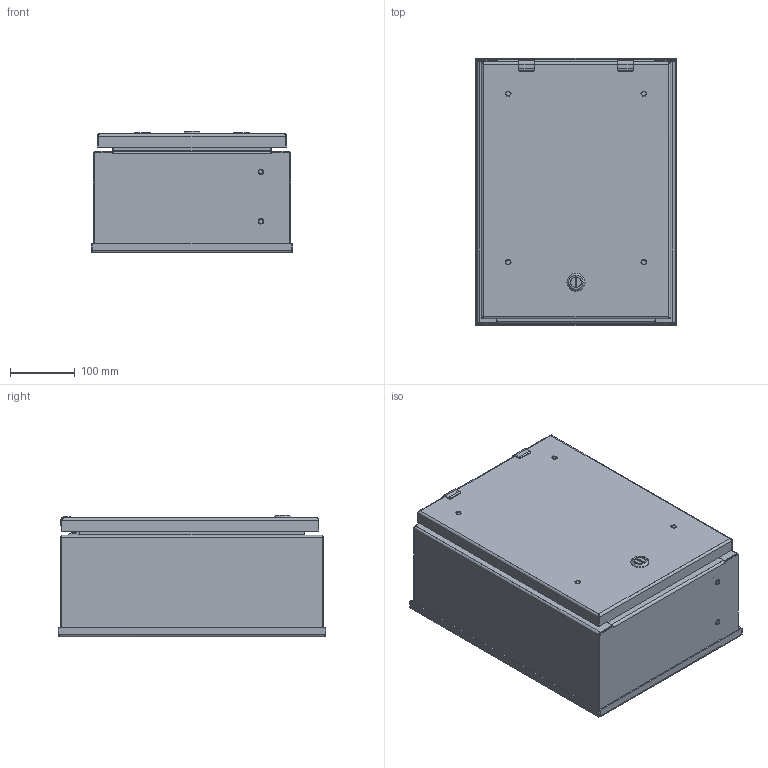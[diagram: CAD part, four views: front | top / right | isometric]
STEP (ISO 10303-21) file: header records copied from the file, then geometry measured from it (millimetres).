
FILE_DESCRIPTION((''),'2;1');
FILE_NAME('MODEL-364_ASM','2023-11-15T13:15:45',('Tony.Gonzales'),('SAGINAW CONTROL & ENGINEERING'),'CREO PARAMETRIC BY PTC INC, 2021284','CREO PARAMETRIC BY PTC INC, 2021284','');
FILE_SCHEMA(('AUTOMOTIVE_DESIGN { 1 0 10303 214 1 1 1 1 }'));
Length unit declared in the file: inch
Products named in the file (31): MODEL-364-BDY; MODEL-364-R-SIDE; MODEL-364-L-SIDE; MODEL-364-R-DR; 103465; 100794_SHAFT; 100794_INSERT; 100794_CAM; 100794_NUT; 100794_SCREW; 100794_ASM; 126392; 126392_ASM; 126395; 102483; 101226; 101389; 102140; MODEL-364-PR-GSKT-R; 127573; 100012; 122255; 127497; 100882; MODEL-364-F-DR; MODEL-364-PR-GSKT-F; 100837; CH-ELJ_SUBPANEL; 102479; CH-ELJ_SUBPANEL-SUBASSEMBLY_ASM; MODEL-364_ASM
Assembly tree (77 placements, depth 3):
  MODEL-364_ASM
    MODEL-364-BDY
    MODEL-364-R-SIDE
    MODEL-364-L-SIDE
    MODEL-364-R-DR
    103465  x9
    100794_ASM
      100794_SHAFT
      100794_INSERT
      100794_CAM
      100794_NUT
      100794_SCREW
    126392_ASM  x2
      126392
    126395  x2
    102483  x6
    101226  x2
    101389  x2
    102140  x2
    MODEL-364-PR-GSKT-R
    127573
    100012  x4
    122255
    127497  x2
    100882  x16
    MODEL-364-F-DR
    MODEL-364-PR-GSKT-F
    100837  x8
    CH-ELJ_SUBPANEL-SUBASSEMBLY_ASM
      CH-ELJ_SUBPANEL
      102479  x4
Bounding box: 311.66 x 413.26 x 187.84 mm (x, y, z)
Volume: 1662365.6 mm3; surface area: 1625471.9 mm2
Topology: 75 solids, 75 shells, 6248 faces, 16705 edges, 10576 vertices
Faces by surface type: bspline 2488, plane 2304, cylinder 1009, torus 237, cone 190, sphere 20
Entity records: 94070 total; most frequent: CARTESIAN_POINT 27498, ORIENTED_EDGE 9562, DIRECTION 9021, PRESENTATION_STYLE_ASSIGNMENT 4982, EDGE_CURVE 4781, STYLED_ITEM 4707, CURVE_STYLE 4619, AXIS2_PLACEMENT_3D 3268
